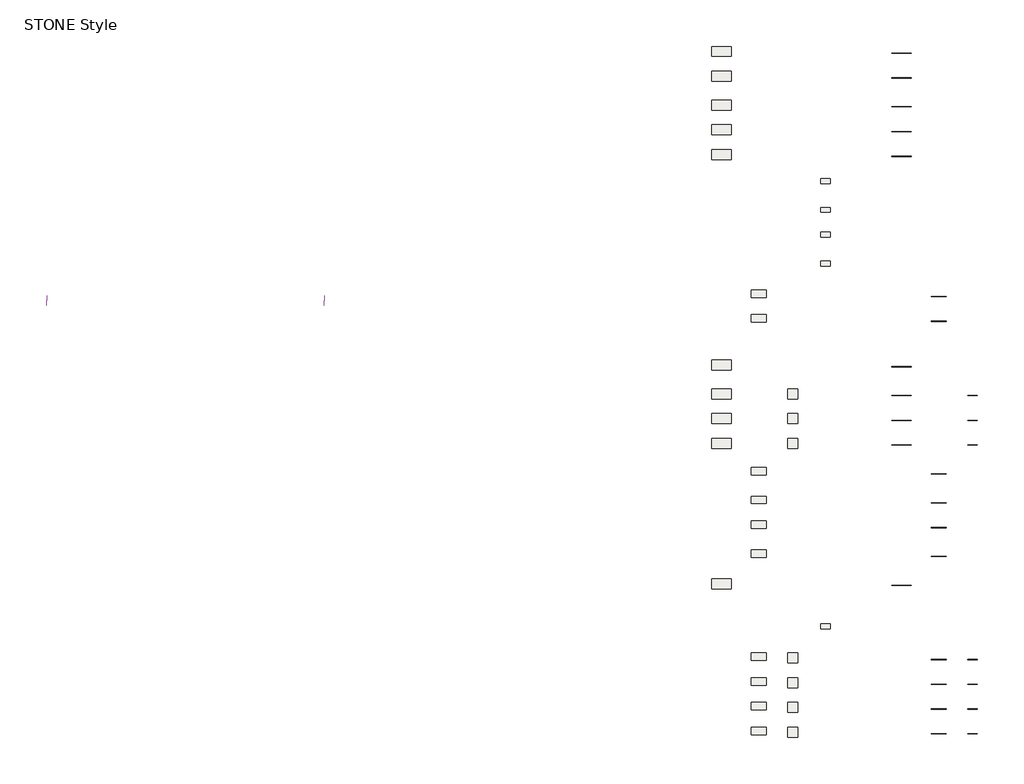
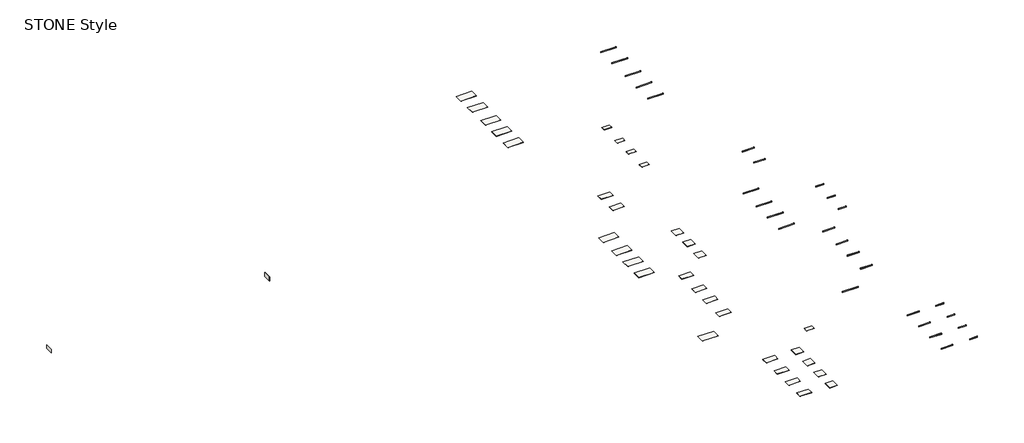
# One storey: 32 slabs, 29 walls, 27 proxies.
"""IFC4 building model written with IfcOpenShell, lengths in millimetres."""

import ifcopenshell
import ifcopenshell.guid

model = None  # the IFC model being written
_history = None  # IfcOwnerHistory: only IFC2X3 demands one
_inside = {}  # id of a spatial element -> (the spatial element, [elements in it])
_under = {}  # id of a project, library or spatial element -> (it, [spatial elements below it])
_declared = {}  # id of a project -> (the project, [libraries it declares])
_typed = {}  # id of a type object -> (the type object, [elements of that type])
_made_of = {}  # id of a material, layer set ... -> (it, [elements and type objects made of it])


def new_model(schema):
    """Start an empty IFC model of exactly this schema.

    Asked for "IFC4X3", IfcOpenShell would pick the latest addendum, in which some entities
    have other attributes; the version numbers below select the first issue.
    IFC2X3 requires an IfcOwnerHistory on every rooted entity: one is made here for all.
    """
    global model, _history
    if schema == "IFC4X3":
        model = ifcopenshell.file(schema_version=(4, 3, 0, 0))
    else:
        model = ifcopenshell.file(schema=schema)
    _inside.clear()
    _under.clear()
    _declared.clear()
    _typed.clear()
    _made_of.clear()
    _history = None
    if model.schema == "IFC2X3":
        org = make("IfcOrganization", Name="unknown")
        user = make(
            "IfcPersonAndOrganization",
            ThePerson=make("IfcPerson", FamilyName="unknown"),
            TheOrganization=org,
        )
        app = make(
            "IfcApplication",
            ApplicationDeveloper=org,
            Version="unknown",
            ApplicationFullName="unknown",
            ApplicationIdentifier="unknown",
        )
        _history = make(
            "IfcOwnerHistory",
            OwningUser=user,
            OwningApplication=app,
            ChangeAction="ADDED",
            CreationDate=0,
        )
    return model


def make(cls, **values):
    """One entity of the class cls with the attributes given. An attribute that is None is left unset."""
    return model.create_entity(
        cls, **{name: value for name, value in values.items() if value is not None}
    )


def rooted(cls, **values):
    """An entity with a GlobalId (a new one), such as an element, a storey or a relation."""
    return make(cls, GlobalId=ifcopenshell.guid.new(), OwnerHistory=_history, **values)


def si_unit(unit_type, name, prefix=None):
    """IfcSIUnit, for example si_unit("LENGTHUNIT", "METRE", prefix="MILLI")."""
    return make("IfcSIUnit", UnitType=unit_type, Prefix=prefix, Name=name)


def assignment(units):
    """IfcUnitAssignment: the units of a project."""
    return None if units is None else make("IfcUnitAssignment", Units=units)


def point(xyz):
    """IfcCartesianPoint."""
    return None if xyz is None else make("IfcCartesianPoint", Coordinates=xyz)


def direction(xyz):
    """IfcDirection."""
    return None if xyz is None else make("IfcDirection", DirectionRatios=xyz)


def frame(location, z_axis=None, x_axis=None):
    """IfcAxis2Placement3D, a coordinate frame: its origin and axes. An axis left out is left unset."""
    return make(
        "IfcAxis2Placement3D",
        Location=point(location),
        Axis=direction(z_axis),
        RefDirection=direction(x_axis),
    )


def origin():
    """The frame at (0, 0, 0) with its axes left unset."""
    return frame((0.0, 0.0, 0.0))


def place(relative_to, where):
    """IfcLocalPlacement: puts the frame where relative to a parent placement (None: the world)."""
    return make(
        "IfcLocalPlacement", PlacementRelTo=relative_to, RelativePlacement=where
    )


def context(
    kind, dimensions, precision=None, world=None, true_north=None, identifier=None
):
    """IfcGeometricRepresentationContext, for example the 3D "Model" context."""
    return make(
        "IfcGeometricRepresentationContext",
        ContextIdentifier=identifier,
        ContextType=kind,
        CoordinateSpaceDimension=dimensions,
        Precision=precision,
        WorldCoordinateSystem=world,
        TrueNorth=true_north,
    )


def project(units=None, contexts=None):
    """IfcProject with its units and contexts."""
    return rooted(
        "IfcProject",
        Name="project",
        RepresentationContexts=contexts,
        UnitsInContext=assignment(units),
    )


def spatial(cls, under=None, at=None, **own):
    """A site, building, storey or space (cls), placed at a placement, below another one or the project."""
    s = rooted(cls, ObjectPlacement=at, **own)
    if under is not None:
        _under.setdefault(under.id(), (under, []))[1].append(s)
    return s


def polyline(points):
    """IfcPolyline through the points."""
    return make("IfcPolyline", Points=[point(p) for p in points])


def outline(outer, holes=None, kind="AREA"):
    """IfcArbitraryClosedProfileDef: a profile drawn as a closed curve; with holes, ...WithVoids."""
    if holes is None:
        return make("IfcArbitraryClosedProfileDef", ProfileType=kind, OuterCurve=outer)
    return make(
        "IfcArbitraryProfileDefWithVoids",
        ProfileType=kind,
        OuterCurve=outer,
        InnerCurves=holes,
    )


def extrude(swept, where, along, depth):
    """IfcExtrudedAreaSolid: the profile swept, set in the frame where, extruded along a direction by depth."""
    return make(
        "IfcExtrudedAreaSolid",
        SweptArea=swept,
        Position=where,
        ExtrudedDirection=direction(along),
        Depth=depth,
    )


def shape(context_of_items, identifier, shape_type, items):
    """IfcShapeRepresentation: the items that make up one representation, for example the "Body"."""
    return make(
        "IfcShapeRepresentation",
        ContextOfItems=context_of_items,
        RepresentationIdentifier=identifier,
        RepresentationType=shape_type,
        Items=items,
    )


def made_of(thing, what):
    """Note that an element or type object is made of a material, layer set ...; save() writes the relation."""
    if what is not None:
        _made_of.setdefault(what.id(), (what, []))[1].append(thing)
    return thing


def element(
    cls,
    number,
    at=None,
    inside=None,
    cuts=None,
    type_object=None,
    material=None,
    context=None,
    identifier="Body",
    shape_type=None,
    held_by="IfcProductDefinitionShape",
    body=None,
    shapes=None,
    **own,
):
    """One element of the class cls, such as IfcWall. Its Tag is "e" and its number.

    at: its placement. inside: the storey or other place that contains it. cuts: it is an
    opening in that element (IfcRelVoidsElement). A single representation is given by context,
    identifier, shape_type and body (its items); several are given by shapes. held_by: the class
    of the entity that holds the representations. save() writes the other relations.
    """
    e = rooted(cls, Tag="e%d" % number, ObjectPlacement=at, **own)
    if body is not None:
        shapes = [shape(context, identifier, shape_type, body)]
    if shapes is not None:
        e.Representation = make(held_by, Representations=shapes)
    if inside is not None:
        _inside.setdefault(inside.id(), (inside, []))[1].append(e)
    if cuts is not None:
        rooted(
            "IfcRelVoidsElement", RelatingBuildingElement=cuts, RelatedOpeningElement=e
        )
    if type_object is not None:
        _typed.setdefault(type_object.id(), (type_object, []))[1].append(e)
    return made_of(e, material)


def aggregate(whole, parts):
    """IfcRelAggregates: a whole, such as a stair, and the parts it consists of."""
    return rooted("IfcRelAggregates", RelatingObject=whole, RelatedObjects=parts)


def save(model, path):
    """Write the relations noted so far, then the file.

    IfcRelAggregates (storeys below a building ...), IfcRelContainedInSpatialStructure (elements
    in a storey), IfcRelDefinesByType, IfcRelAssociatesMaterial and IfcRelDeclares: one each for
    every whole, place, type object, material and project.
    """
    for whole, parts in _under.values():
        aggregate(whole, parts)
    for where, things in _inside.values():
        rooted(
            "IfcRelContainedInSpatialStructure",
            RelatedElements=things,
            RelatingStructure=where,
        )
    for kind, things in _typed.values():
        rooted("IfcRelDefinesByType", RelatedObjects=things, RelatingType=kind)
    for what, things in _made_of.values():
        rooted("IfcRelAssociatesMaterial", RelatedObjects=things, RelatingMaterial=what)
    for by, libraries in _declared.values():
        rooted("IfcRelDeclares", RelatingContext=by, RelatedDefinitions=libraries)
    model.write(path)


model = new_model("IFC4")

# Units and contexts
model_context = context("Model", 3, world=origin())
ifc_project = project(units=[si_unit("LENGTHUNIT", "METRE", prefix="MILLI")], contexts=[model_context])

# Site, building, storey
site = spatial("IfcSite", under=ifc_project)
building = spatial("IfcBuilding", under=site)
storey = spatial("IfcBuildingStorey", under=building, Name="STONE Style", Elevation=18000.0)

# Proxies
placement = place(None, origin())
element("IfcBuildingElementProxy", 1, Name="Cesantoni_Atis _8x120_RO_Grigio_Mate", ObjectType="Cesantoni_Atis _8x120_RO_Grigio_Mate", at=placement, inside=storey, context=model_context, shape_type="SweptSolid", body=[
    extrude(outline(polyline([(9669.8218898, 374.781227), (9669.8218898, 385.781227), (10869.8218898, 385.781227), (10869.8218898, 374.781227), (9669.8218898, 374.781227)])), frame((0.0, 0.0, 18000.0), z_axis=(0.0, 0.0, 1.0), x_axis=(1.0, 0.0, 0.0)), (0.0, 0.0, 1.0), 80.0),
])
element("IfcBuildingElementProxy", 2, Name="Cesantoni_Atis _8x120_RO_Marfil_Mate", ObjectType="Cesantoni_Atis _8x120_RO_Marfil_Mate", at=placement, inside=storey, context=model_context, shape_type="SweptSolid", body=[
    extrude(outline(polyline([(9669.8218898, -1125.218773), (9669.8218898, -1114.218773), (10869.8218898, -1114.218773), (10869.8218898, -1125.218773), (9669.8218898, -1125.218773)])), frame((0.0, 0.0, 18000.0), z_axis=(0.0, 0.0, 1.0), x_axis=(1.0, 0.0, 0.0)), (0.0, 0.0, 1.0), 80.0),
])
element("IfcBuildingElementProxy", 3, Name="Cesantoni_Botev _8x120_RO_Marfil_Mate", ObjectType="Cesantoni_Botev _8x120_RO_Marfil_Mate", at=placement, inside=storey, context=model_context, shape_type="SweptSolid", body=[
    extrude(outline(polyline([(9669.8218898, -2875.218773), (9669.8218898, -2864.218773), (10869.8218898, -2864.218773), (10869.8218898, -2875.218773), (9669.8218898, -2875.218773)])), frame((0.0, 0.0, 18000.0), z_axis=(0.0, 0.0, 1.0), x_axis=(1.0, 0.0, 0.0)), (0.0, 0.0, 1.0), 80.0),
])
element("IfcBuildingElementProxy", 4, Name="Cesantoni_Botev _8x120_RO_Tabaco_Mate", ObjectType="Cesantoni_Botev _8x120_RO_Tabaco_Mate", at=placement, inside=storey, context=model_context, shape_type="SweptSolid", body=[
    extrude(outline(polyline([(9669.8218898, -4375.218773), (9669.8218898, -4364.218773), (10869.8218898, -4364.218773), (10869.8218898, -4375.218773), (9669.8218898, -4375.218773)])), frame((0.0, 0.0, 18000.0), z_axis=(0.0, 0.0, 1.0), x_axis=(1.0, 0.0, 0.0)), (0.0, 0.0, 1.0), 80.0),
])
element("IfcBuildingElementProxy", 5, Name="Cesantoni_Botev _8x120_RO_Taupé_Mate", ObjectType="Cesantoni_Botev _8x120_RO_Taupé_Mate", at=placement, inside=storey, context=model_context, shape_type="SweptSolid", body=[
    extrude(outline(polyline([(9669.8218898, -5875.218773), (9669.8218898, -5864.218773), (10869.8218898, -5864.218773), (10869.8218898, -5875.218773), (9669.8218898, -5875.218773)])), frame((0.0, 0.0, 18000.0), z_axis=(0.0, 0.0, 1.0), x_axis=(1.0, 0.0, 0.0)), (0.0, 0.0, 1.0), 80.0),
])
element("IfcBuildingElementProxy", 6, Name="Cesantoni_Gaudi_8x90_RO_Gris_Mate", ObjectType="Cesantoni_Gaudi_8x90_RO_Gris_Mate", at=placement, inside=storey, context=model_context, shape_type="SweptSolid", body=[
    extrude(outline(polyline([(12069.8218898, -14375.218773), (12069.8218898, -14364.218773), (12969.8218898, -14364.218773), (12969.8218898, -14375.218773), (12069.8218898, -14375.218773)])), frame((0.0, 0.0, 18000.0), z_axis=(0.0, 0.0, 1.0), x_axis=(1.0, 0.0, 0.0)), (0.0, 0.0, 1.0), 80.0),
])
element("IfcBuildingElementProxy", 7, Name="Cesantoni_Gaudi_8x90_RO_Café_Mate", ObjectType="Cesantoni_Gaudi_8x90_RO_Café_Mate", at=placement, inside=storey, context=model_context, shape_type="SweptSolid", body=[
    extrude(outline(polyline([(12069.8218898, -15875.218773), (12069.8218898, -15864.218773), (12969.8218898, -15864.218773), (12969.8218898, -15875.218773), (12069.8218898, -15875.218773)])), frame((0.0, 0.0, 18000.0), z_axis=(0.0, 0.0, 1.0), x_axis=(1.0, 0.0, 0.0)), (0.0, 0.0, 1.0), 80.0),
])
element("IfcBuildingElementProxy", 8, Name="Cesantoni_Helsinki _8x120_RO_Helsinki _Mate", ObjectType="Cesantoni_Helsinki _8x120_RO_Helsinki _Mate", at=placement, inside=storey, context=model_context, shape_type="SweptSolid", body=[
    extrude(outline(polyline([(9669.8218898, -18625.218773), (9669.8218898, -18614.218773), (10869.8218898, -18614.218773), (10869.8218898, -18625.218773), (9669.8218898, -18625.218773)])), frame((0.0, 0.0, 18000.0), z_axis=(0.0, 0.0, 1.0), x_axis=(1.0, 0.0, 0.0)), (0.0, 0.0, 1.0), 80.0),
])
element("IfcBuildingElementProxy", 9, Name="Cesantoni_Kiel_8x60_RO_Sand_Mate", ObjectType="Cesantoni_Kiel_8x60_RO_Sand_Mate", at=placement, inside=storey, context=model_context, shape_type="SweptSolid", body=[
    extrude(outline(polyline([(14269.8218898, -20375.218773), (14269.8218898, -20364.218773), (14869.8218898, -20364.218773), (14869.8218898, -20375.218773), (14269.8218898, -20375.218773)])), frame((0.0, 0.0, 18000.0), z_axis=(0.0, 0.0, 1.0), x_axis=(1.0, 0.0, 0.0)), (0.0, 0.0, 1.0), 80.0),
])
element("IfcBuildingElementProxy", 10, Name="Cesantoni_Kiel_8x60_RO_Gray_Mate", ObjectType="Cesantoni_Kiel_8x60_RO_Gray_Mate", at=placement, inside=storey, context=model_context, shape_type="SweptSolid", body=[
    extrude(outline(polyline([(14269.8218898, -21875.218773), (14269.8218898, -21864.218773), (14869.8218898, -21864.218773), (14869.8218898, -21875.218773), (14269.8218898, -21875.218773)])), frame((0.0, 0.0, 18000.0), z_axis=(0.0, 0.0, 1.0), x_axis=(1.0, 0.0, 0.0)), (0.0, 0.0, 1.0), 80.0),
])
element("IfcBuildingElementProxy", 11, Name="Cesantoni_Kiel_8x60_RO_Dark_Mate", ObjectType="Cesantoni_Kiel_8x60_RO_Dark_Mate", at=placement, inside=storey, context=model_context, shape_type="SweptSolid", body=[
    extrude(outline(polyline([(14269.8218898, -23375.218773), (14269.8218898, -23364.218773), (14869.8218898, -23364.218773), (14869.8218898, -23375.218773), (14269.8218898, -23375.218773)])), frame((0.0, 0.0, 18000.0), z_axis=(0.0, 0.0, 1.0), x_axis=(1.0, 0.0, 0.0)), (0.0, 0.0, 1.0), 80.0),
])
element("IfcBuildingElementProxy", 12, Name="Cesantoni_Kiel_8x120_RO_Sand_Mate", ObjectType="Cesantoni_Kiel_8x120_RO_Sand_Mate", at=placement, inside=storey, context=model_context, shape_type="SweptSolid", body=[
    extrude(outline(polyline([(9669.8218898, -20375.218773), (9669.8218898, -20364.218773), (10869.8218898, -20364.218773), (10869.8218898, -20375.218773), (9669.8218898, -20375.218773)])), frame((0.0, 0.0, 18000.0), z_axis=(0.0, 0.0, 1.0), x_axis=(1.0, 0.0, 0.0)), (0.0, 0.0, 1.0), 80.0),
])
element("IfcBuildingElementProxy", 13, Name="Cesantoni_Kiel_8x120_RO_Dark_Mate", ObjectType="Cesantoni_Kiel_8x120_RO_Dark_Mate", at=placement, inside=storey, context=model_context, shape_type="SweptSolid", body=[
    extrude(outline(polyline([(9669.8218898, -21875.218773), (9669.8218898, -21864.218773), (10869.8218898, -21864.218773), (10869.8218898, -21875.218773), (9669.8218898, -21875.218773)])), frame((0.0, 0.0, 18000.0), z_axis=(0.0, 0.0, 1.0), x_axis=(1.0, 0.0, 0.0)), (0.0, 0.0, 1.0), 80.0),
])
element("IfcBuildingElementProxy", 14, Name="Cesantoni_Kiel_8x120_RO_Gray_Mate", ObjectType="Cesantoni_Kiel_8x120_RO_Gray_Mate", at=placement, inside=storey, context=model_context, shape_type="SweptSolid", body=[
    extrude(outline(polyline([(9669.8218898, -23375.218773), (9669.8218898, -23364.218773), (10869.8218898, -23364.218773), (10869.8218898, -23375.218773), (9669.8218898, -23375.218773)])), frame((0.0, 0.0, 18000.0), z_axis=(0.0, 0.0, 1.0), x_axis=(1.0, 0.0, 0.0)), (0.0, 0.0, 1.0), 80.0),
])
element("IfcBuildingElementProxy", 15, Name="Cesantoni_Lanz_8x90_RO_Lanz_Mate", ObjectType="Cesantoni_Lanz_8x90_RO_Lanz_Mate", at=placement, inside=storey, context=model_context, shape_type="SweptSolid", body=[
    extrude(outline(polyline([(12069.8218898, -25125.218773), (12069.8218898, -25114.218773), (12969.8218898, -25114.218773), (12969.8218898, -25125.218773), (12069.8218898, -25125.218773)])), frame((0.0, 0.0, 18000.0), z_axis=(0.0, 0.0, 1.0), x_axis=(1.0, 0.0, 0.0)), (0.0, 0.0, 1.0), 80.0),
])
element("IfcBuildingElementProxy", 16, Name="Cesantoni_Lemek_8x90_RO_Grafito_Mate", ObjectType="Cesantoni_Lemek_8x90_RO_Grafito_Mate", at=placement, inside=storey, context=model_context, shape_type="SweptSolid", body=[
    extrude(outline(polyline([(12069.8218898, -26875.218773), (12069.8218898, -26864.218773), (12969.8218898, -26864.218773), (12969.8218898, -26875.218773), (12069.8218898, -26875.218773)])), frame((0.0, 0.0, 18000.0), z_axis=(0.0, 0.0, 1.0), x_axis=(1.0, 0.0, 0.0)), (0.0, 0.0, 1.0), 80.0),
])
element("IfcBuildingElementProxy", 17, Name="Cesantoni_Lemek_8x90_RO_Blanco_Mate", ObjectType="Cesantoni_Lemek_8x90_RO_Blanco_Mate", at=placement, inside=storey, context=model_context, shape_type="SweptSolid", body=[
    extrude(outline(polyline([(12069.8218898, -28375.218773), (12069.8218898, -28364.218773), (12969.8218898, -28364.218773), (12969.8218898, -28375.218773), (12069.8218898, -28375.218773)])), frame((0.0, 0.0, 18000.0), z_axis=(0.0, 0.0, 1.0), x_axis=(1.0, 0.0, 0.0)), (0.0, 0.0, 1.0), 80.0),
])
element("IfcBuildingElementProxy", 18, Name="Cesantoni_Lombardi _8x90_RO_Taupé_Mate", ObjectType="Cesantoni_Lombardi _8x90_RO_Taupé_Mate", at=placement, inside=storey, context=model_context, shape_type="SweptSolid", body=[
    extrude(outline(polyline([(12069.8218898, -30125.218773), (12069.8218898, -30114.218773), (12969.8218898, -30114.218773), (12969.8218898, -30125.218773), (12069.8218898, -30125.218773)])), frame((0.0, 0.0, 18000.0), z_axis=(0.0, 0.0, 1.0), x_axis=(1.0, 0.0, 0.0)), (0.0, 0.0, 1.0), 80.0),
])
element("IfcBuildingElementProxy", 19, Name="Cesantoni_Martel_Gray _8x120_RO_Martel_Gray _Mate", ObjectType="Cesantoni_Martel_Gray _8x120_RO_Martel_Gray _Mate", at=placement, inside=storey, context=model_context, shape_type="SweptSolid", body=[
    extrude(outline(polyline([(9669.8218898, -31875.218773), (9669.8218898, -31864.218773), (10869.8218898, -31864.218773), (10869.8218898, -31875.218773), (9669.8218898, -31875.218773)])), frame((0.0, 0.0, 18000.0), z_axis=(0.0, 0.0, 1.0), x_axis=(1.0, 0.0, 0.0)), (0.0, 0.0, 1.0), 80.0),
])
element("IfcBuildingElementProxy", 20, Name="Cesantoni_Piamont_8x90_RO_Beige_Mate", ObjectType="Cesantoni_Piamont_8x90_RO_Beige_Mate", at=placement, inside=storey, context=model_context, shape_type="SweptSolid", body=[
    extrude(outline(polyline([(12069.8218898, -36375.218773), (12069.8218898, -36364.218773), (12969.8218898, -36364.218773), (12969.8218898, -36375.218773), (12069.8218898, -36375.218773)])), frame((0.0, 0.0, 18000.0), z_axis=(0.0, 0.0, 1.0), x_axis=(1.0, 0.0, 0.0)), (0.0, 0.0, 1.0), 80.0),
])
element("IfcBuildingElementProxy", 21, Name="Cesantoni_Piamont_8x90_RO_Blanco_Mate", ObjectType="Cesantoni_Piamont_8x90_RO_Blanco_Mate", at=placement, inside=storey, context=model_context, shape_type="SweptSolid", body=[
    extrude(outline(polyline([(12069.8218898, -37875.218773), (12069.8218898, -37864.218773), (12969.8218898, -37864.218773), (12969.8218898, -37875.218773), (12069.8218898, -37875.218773)])), frame((0.0, 0.0, 18000.0), z_axis=(0.0, 0.0, 1.0), x_axis=(1.0, 0.0, 0.0)), (0.0, 0.0, 1.0), 80.0),
])
element("IfcBuildingElementProxy", 22, Name="Cesantoni_Piamont_8x90_RO_Café_Mate", ObjectType="Cesantoni_Piamont_8x90_RO_Café_Mate", at=placement, inside=storey, context=model_context, shape_type="SweptSolid", body=[
    extrude(outline(polyline([(12069.8218898, -39375.218773), (12069.8218898, -39364.218773), (12969.8218898, -39364.218773), (12969.8218898, -39375.218773), (12069.8218898, -39375.218773)])), frame((0.0, 0.0, 18000.0), z_axis=(0.0, 0.0, 1.0), x_axis=(1.0, 0.0, 0.0)), (0.0, 0.0, 1.0), 80.0),
])
element("IfcBuildingElementProxy", 23, Name="Cesantoni_Piamont_8x90_RO_Gris_Mate", ObjectType="Cesantoni_Piamont_8x90_RO_Gris_Mate", at=placement, inside=storey, context=model_context, shape_type="SweptSolid", body=[
    extrude(outline(polyline([(12069.8218898, -40875.218773), (12069.8218898, -40864.218773), (12969.8218898, -40864.218773), (12969.8218898, -40875.218773), (12069.8218898, -40875.218773)])), frame((0.0, 0.0, 18000.0), z_axis=(0.0, 0.0, 1.0), x_axis=(1.0, 0.0, 0.0)), (0.0, 0.0, 1.0), 80.0),
])
element("IfcBuildingElementProxy", 24, Name="Cesantoni_Piamont_8x60_RO_Beige_Mate", ObjectType="Cesantoni_Piamont_8x60_RO_Beige_Mate", at=placement, inside=storey, context=model_context, shape_type="SweptSolid", body=[
    extrude(outline(polyline([(14269.8218898, -36375.218773), (14269.8218898, -36364.218773), (14869.8218898, -36364.218773), (14869.8218898, -36375.218773), (14269.8218898, -36375.218773)])), frame((0.0, 0.0, 18000.0), z_axis=(0.0, 0.0, 1.0), x_axis=(1.0, 0.0, 0.0)), (0.0, 0.0, 1.0), 80.0),
])
element("IfcBuildingElementProxy", 25, Name="Cesantoni_Piamont_8x60_RO_Blanco_Mate", ObjectType="Cesantoni_Piamont_8x60_RO_Blanco_Mate", at=placement, inside=storey, context=model_context, shape_type="SweptSolid", body=[
    extrude(outline(polyline([(14269.8218898, -37875.218773), (14269.8218898, -37864.218773), (14869.8218898, -37864.218773), (14869.8218898, -37875.218773), (14269.8218898, -37875.218773)])), frame((0.0, 0.0, 18000.0), z_axis=(0.0, 0.0, 1.0), x_axis=(1.0, 0.0, 0.0)), (0.0, 0.0, 1.0), 80.0),
])
element("IfcBuildingElementProxy", 26, Name="Cesantoni_Piamont_8x60_RO_Café_Mate", ObjectType="Cesantoni_Piamont_8x60_RO_Café_Mate", at=placement, inside=storey, context=model_context, shape_type="SweptSolid", body=[
    extrude(outline(polyline([(14269.8218898, -39375.218773), (14269.8218898, -39364.218773), (14869.8218898, -39364.218773), (14869.8218898, -39375.218773), (14269.8218898, -39375.218773)])), frame((0.0, 0.0, 18000.0), z_axis=(0.0, 0.0, 1.0), x_axis=(1.0, 0.0, 0.0)), (0.0, 0.0, 1.0), 80.0),
])
element("IfcBuildingElementProxy", 27, Name="Cesantoni_Piamont_8x60_RO_Gris_Mate", ObjectType="Cesantoni_Piamont_8x60_RO_Gris_Mate", at=placement, inside=storey, context=model_context, shape_type="SweptSolid", body=[
    extrude(outline(polyline([(14269.8218898, -40875.218773), (14269.8218898, -40864.218773), (14869.8218898, -40864.218773), (14869.8218898, -40875.218773), (14269.8218898, -40875.218773)])), frame((0.0, 0.0, 18000.0), z_axis=(0.0, 0.0, 1.0), x_axis=(1.0, 0.0, 0.0)), (0.0, 0.0, 1.0), 80.0),
])

# Slabs
element("IfcSlab", 28, ObjectType="Cesantoni_Atis _60x120_RECT_Grigio_Mate", at=placement, inside=storey, context=model_context, shape_type="SweptSolid", body=[
    extrude(outline(polyline([(-28.1781102, 784.4826442), (-28.1781102, 182.4826442), (-1230.1781102, 182.4826442), (-1230.1781102, 784.4826442), (-28.1781102, 784.4826442)])), frame((0.0, 0.0, 17989.0), z_axis=(0.0, 0.0, 1.0), x_axis=(1.0, 0.0, 0.0)), (0.0, 0.0, 1.0), 11.0),
])
element("IfcSlab", 29, ObjectType="Cesantoni_Atis _60x120_RECT_Marfil_Mate", at=placement, inside=storey, context=model_context, shape_type="SweptSolid", body=[
    extrude(outline(polyline([(-28.1781102, -715.5173558), (-28.1781102, -1317.5173558), (-1230.1781102, -1317.5173558), (-1230.1781102, -715.5173558), (-28.1781102, -715.5173558)])), frame((0.0, 0.0, 17989.0), z_axis=(0.0, 0.0, 1.0), x_axis=(1.0, 0.0, 0.0)), (0.0, 0.0, 1.0), 11.0),
])
element("IfcSlab", 30, ObjectType="Cesantoni_Botev _60x120_RECT_Marfil_Mate", at=placement, inside=storey, context=model_context, shape_type="SweptSolid", body=[
    extrude(outline(polyline([(-28.1781102, -2465.5173558), (-28.1781102, -3067.5173558), (-1230.1781102, -3067.5173558), (-1230.1781102, -2465.5173558), (-28.1781102, -2465.5173558)])), frame((0.0, 0.0, 17989.0), z_axis=(0.0, 0.0, 1.0), x_axis=(1.0, 0.0, 0.0)), (0.0, 0.0, 1.0), 11.0),
])
element("IfcSlab", 31, ObjectType="Cesantoni_Botev _60x120_RECT_Tabaco_Mate", at=placement, inside=storey, context=model_context, shape_type="SweptSolid", body=[
    extrude(outline(polyline([(-28.1781102, -3965.5173558), (-28.1781102, -4567.5173558), (-1230.1781102, -4567.5173558), (-1230.1781102, -3965.5173558), (-28.1781102, -3965.5173558)])), frame((0.0, 0.0, 17989.0), z_axis=(0.0, 0.0, 1.0), x_axis=(1.0, 0.0, 0.0)), (0.0, 0.0, 1.0), 11.0),
])
element("IfcSlab", 32, ObjectType="Cesantoni_Botev _60x120_RECT_Taupé_Mate", at=placement, inside=storey, context=model_context, shape_type="SweptSolid", body=[
    extrude(outline(polyline([(-28.1781102, -5465.5173558), (-28.1781102, -6067.5173558), (-1230.1781102, -6067.5173558), (-1230.1781102, -5465.5173558), (-28.1781102, -5465.5173558)])), frame((0.0, 0.0, 17989.0), z_axis=(0.0, 0.0, 1.0), x_axis=(1.0, 0.0, 0.0)), (0.0, 0.0, 1.0), 11.0),
])
element("IfcSlab", 33, ObjectType="Cesantoni_Clever_29.5x58_Clever_Mate", at=placement, inside=storey, context=model_context, shape_type="SweptSolid", body=[
    extrude(outline(polyline([(5953.8218898, -7215.5173558), (5953.8218898, -7514.5173558), (5369.8218898, -7514.5173558), (5369.8218898, -7215.5173558), (5953.8218898, -7215.5173558)])), frame((0.0, 0.0, 17989.0), z_axis=(0.0, 0.0, 1.0), x_axis=(1.0, 0.0, 0.0)), (0.0, 0.0, 1.0), 11.0),
])
element("IfcSlab", 34, ObjectType="Cesantoni_Etiopia_29.5x58_Beige_Mate", at=placement, inside=storey, context=model_context, shape_type="SweptSolid", body=[
    extrude(outline(polyline([(5953.8218898, -8965.5173558), (5953.8218898, -9264.5173558), (5369.8218898, -9264.5173558), (5369.8218898, -8965.5173558), (5953.8218898, -8965.5173558)])), frame((0.0, 0.0, 17991.0), z_axis=(0.0, 0.0, 1.0), x_axis=(1.0, 0.0, 0.0)), (0.0, 0.0, 1.0), 9.0),
])
element("IfcSlab", 35, ObjectType="Cesantoni_Etiopia_29.5x58_Café_Mate", at=placement, inside=storey, context=model_context, shape_type="SweptSolid", body=[
    extrude(outline(polyline([(5953.8218898, -10465.5173558), (5953.8218898, -10764.5173558), (5369.8218898, -10764.5173558), (5369.8218898, -10465.5173558), (5953.8218898, -10465.5173558)])), frame((0.0, 0.0, 17991.0), z_axis=(0.0, 0.0, 1.0), x_axis=(1.0, 0.0, 0.0)), (0.0, 0.0, 1.0), 9.0),
])
element("IfcSlab", 36, ObjectType="Cesantoni_Gaskan_29.5x58_Gaskan_Mate", at=placement, inside=storey, context=model_context, shape_type="SweptSolid", body=[
    extrude(outline(polyline([(5953.8218898, -12215.5173558), (5953.8218898, -12514.5173558), (5369.8218898, -12514.5173558), (5369.8218898, -12215.5173558), (5953.8218898, -12215.5173558)])), frame((0.0, 0.0, 17991.0), z_axis=(0.0, 0.0, 1.0), x_axis=(1.0, 0.0, 0.0)), (0.0, 0.0, 1.0), 9.0),
])
element("IfcSlab", 37, ObjectType="Cesantoni_Gaudi_45x90_RECT_Gris_Mate", at=placement, inside=storey, context=model_context, shape_type="SweptSolid", body=[
    extrude(outline(polyline([(2071.8218898, -13965.5173558), (2071.8218898, -14417.5173558), (1169.8218898, -14417.5173558), (1169.8218898, -13965.5173558), (2071.8218898, -13965.5173558)])), frame((0.0, 0.0, 17989.0), z_axis=(0.0, 0.0, 1.0), x_axis=(1.0, 0.0, 0.0)), (0.0, 0.0, 1.0), 11.0),
])
element("IfcSlab", 38, ObjectType="Cesantoni_Gaudi_45x90_RECT_Café_Mate", at=placement, inside=storey, context=model_context, shape_type="SweptSolid", body=[
    extrude(outline(polyline([(2071.8218898, -15465.5173558), (2071.8218898, -15917.5173558), (1169.8218898, -15917.5173558), (1169.8218898, -15465.5173558), (2071.8218898, -15465.5173558)])), frame((0.0, 0.0, 17989.0), z_axis=(0.0, 0.0, 1.0), x_axis=(1.0, 0.0, 0.0)), (0.0, 0.0, 1.0), 11.0),
])
element("IfcSlab", 39, ObjectType="Cesantoni_Helsinki _60x120_RECT_Helsinki _Mate", at=placement, inside=storey, context=model_context, shape_type="SweptSolid", body=[
    extrude(outline(polyline([(-28.1781102, -18215.5173558), (-28.1781102, -18817.5173558), (-1230.1781102, -18817.5173558), (-1230.1781102, -18215.5173558), (-28.1781102, -18215.5173558)])), frame((0.0, 0.0, 17989.0), z_axis=(0.0, 0.0, 1.0), x_axis=(1.0, 0.0, 0.0)), (0.0, 0.0, 1.0), 11.0),
])
element("IfcSlab", 40, ObjectType="Cesantoni_Kiel_60x120_RECT_Sand_Mate", at=placement, inside=storey, context=model_context, shape_type="SweptSolid", body=[
    extrude(outline(polyline([(-28.1781102, -19965.5173558), (-28.1781102, -20567.5173558), (-1230.1781102, -20567.5173558), (-1230.1781102, -19965.5173558), (-28.1781102, -19965.5173558)])), frame((0.0, 0.0, 17989.0), z_axis=(0.0, 0.0, 1.0), x_axis=(1.0, 0.0, 0.0)), (0.0, 0.0, 1.0), 11.0),
])
element("IfcSlab", 41, ObjectType="Cesantoni_Kiel_60x120_RECT_Gray_Mate", at=placement, inside=storey, context=model_context, shape_type="SweptSolid", body=[
    extrude(outline(polyline([(-28.1781102, -21465.5173558), (-28.1781102, -22067.5173558), (-1230.1781102, -22067.5173558), (-1230.1781102, -21465.5173558), (-28.1781102, -21465.5173558)])), frame((0.0, 0.0, 17989.0), z_axis=(0.0, 0.0, 1.0), x_axis=(1.0, 0.0, 0.0)), (0.0, 0.0, 1.0), 11.0),
])
element("IfcSlab", 42, ObjectType="Cesantoni_Kiel_60x120_RECT_Dark_Mate", at=placement, inside=storey, context=model_context, shape_type="SweptSolid", body=[
    extrude(outline(polyline([(-28.1781102, -22965.5173558), (-28.1781102, -23567.5173558), (-1230.1781102, -23567.5173558), (-1230.1781102, -22965.5173558), (-28.1781102, -22965.5173558)])), frame((0.0, 0.0, 17989.0), z_axis=(0.0, 0.0, 1.0), x_axis=(1.0, 0.0, 0.0)), (0.0, 0.0, 1.0), 11.0),
])
element("IfcSlab", 43, ObjectType="Cesantoni_Kiel_60x60_RECT_Sand_Mate", at=placement, inside=storey, context=model_context, shape_type="SweptSolid", body=[
    extrude(outline(polyline([(3971.8218898, -19965.5173558), (3971.8218898, -20567.5173558), (3369.8218898, -20567.5173558), (3369.8218898, -19965.5173558), (3971.8218898, -19965.5173558)])), frame((0.0, 0.0, 17989.0), z_axis=(0.0, 0.0, 1.0), x_axis=(1.0, 0.0, 0.0)), (0.0, 0.0, 1.0), 11.0),
])
element("IfcSlab", 44, ObjectType="Cesantoni_Kiel_60x60_RECT_Gray_Mate", at=placement, inside=storey, context=model_context, shape_type="SweptSolid", body=[
    extrude(outline(polyline([(3971.8218898, -21465.5173558), (3971.8218898, -22067.5173558), (3369.8218898, -22067.5173558), (3369.8218898, -21465.5173558), (3971.8218898, -21465.5173558)])), frame((0.0, 0.0, 17989.0), z_axis=(0.0, 0.0, 1.0), x_axis=(1.0, 0.0, 0.0)), (0.0, 0.0, 1.0), 11.0),
])
element("IfcSlab", 45, ObjectType="Cesantoni_Kiel_60x60_RECT_Dark_Mate", at=placement, inside=storey, context=model_context, shape_type="SweptSolid", body=[
    extrude(outline(polyline([(3971.8218898, -22965.5173558), (3971.8218898, -23567.5173558), (3369.8218898, -23567.5173558), (3369.8218898, -22965.5173558), (3971.8218898, -22965.5173558)])), frame((0.0, 0.0, 17989.0), z_axis=(0.0, 0.0, 1.0), x_axis=(1.0, 0.0, 0.0)), (0.0, 0.0, 1.0), 11.0),
])
element("IfcSlab", 46, ObjectType="Cesantoni_Lanz_45x90_RECT_Lanz_Mate", at=placement, inside=storey, context=model_context, shape_type="SweptSolid", body=[
    extrude(outline(polyline([(2071.8218898, -24715.5173558), (2071.8218898, -25167.5173558), (1169.8218898, -25167.5173558), (1169.8218898, -24715.5173558), (2071.8218898, -24715.5173558)])), frame((0.0, 0.0, 17989.0), z_axis=(0.0, 0.0, 1.0), x_axis=(1.0, 0.0, 0.0)), (0.0, 0.0, 1.0), 11.0),
])
element("IfcSlab", 47, ObjectType="Cesantoni_Lemek_45x90_RECT_Grafito_Mate", at=placement, inside=storey, context=model_context, shape_type="SweptSolid", body=[
    extrude(outline(polyline([(2071.8218898, -26465.5173558), (2071.8218898, -26917.5173558), (1169.8218898, -26917.5173558), (1169.8218898, -26465.5173558), (2071.8218898, -26465.5173558)])), frame((0.0, 0.0, 17989.0), z_axis=(0.0, 0.0, 1.0), x_axis=(1.0, 0.0, 0.0)), (0.0, 0.0, 1.0), 11.0),
])
element("IfcSlab", 48, ObjectType="Cesantoni_Lemek_45x90_RECT_Blanco_Mate", at=placement, inside=storey, context=model_context, shape_type="SweptSolid", body=[
    extrude(outline(polyline([(2071.8218898, -27965.5173558), (2071.8218898, -28417.5173558), (1169.8218898, -28417.5173558), (1169.8218898, -27965.5173558), (2071.8218898, -27965.5173558)])), frame((0.0, 0.0, 17989.0), z_axis=(0.0, 0.0, 1.0), x_axis=(1.0, 0.0, 0.0)), (0.0, 0.0, 1.0), 11.0),
])
element("IfcSlab", 49, ObjectType="Cesantoni_Lombardi _45x90_RECT_Taupé_Mate", at=placement, inside=storey, context=model_context, shape_type="SweptSolid", body=[
    extrude(outline(polyline([(2071.8218898, -29715.5173558), (2071.8218898, -30167.5173558), (1169.8218898, -30167.5173558), (1169.8218898, -29715.5173558), (2071.8218898, -29715.5173558)])), frame((0.0, 0.0, 17989.0), z_axis=(0.0, 0.0, 1.0), x_axis=(1.0, 0.0, 0.0)), (0.0, 0.0, 1.0), 11.0),
])
element("IfcSlab", 50, ObjectType="Cesantoni_Martel_Gray _60x120_RECT_Martel_Gray _Mate", at=placement, inside=storey, context=model_context, shape_type="SweptSolid", body=[
    extrude(outline(polyline([(-28.1781102, -31465.5173558), (-28.1781102, -32067.5173558), (-1230.1781102, -32067.5173558), (-1230.1781102, -31465.5173558), (-28.1781102, -31465.5173558)])), frame((0.0, 0.0, 17989.0), z_axis=(0.0, 0.0, 1.0), x_axis=(1.0, 0.0, 0.0)), (0.0, 0.0, 1.0), 11.0),
])
element("IfcSlab", 51, ObjectType="Cesantoni_Noslow_29.5x58_Noslow_Mate", at=placement, inside=storey, context=model_context, shape_type="SweptSolid", body=[
    extrude(outline(polyline([(5953.8218898, -34215.5173558), (5953.8218898, -34514.5173558), (5369.8218898, -34514.5173558), (5369.8218898, -34215.5173558), (5953.8218898, -34215.5173558)])), frame((0.0, 0.0, 17991.0), z_axis=(0.0, 0.0, 1.0), x_axis=(1.0, 0.0, 0.0)), (0.0, 0.0, 1.0), 9.0),
])
element("IfcSlab", 52, ObjectType="Cesantoni_Piamont_60x60_RECT_Beige_Mate", at=placement, inside=storey, context=model_context, shape_type="SweptSolid", body=[
    extrude(outline(polyline([(3971.8218898, -35965.5173558), (3971.8218898, -36567.5173558), (3369.8218898, -36567.5173558), (3369.8218898, -35965.5173558), (3971.8218898, -35965.5173558)])), frame((0.0, 0.0, 17989.0), z_axis=(0.0, 0.0, 1.0), x_axis=(1.0, 0.0, 0.0)), (0.0, 0.0, 1.0), 11.0),
])
element("IfcSlab", 53, ObjectType="Cesantoni_Piamont_60x60_RECT_Blanco_Mate", at=placement, inside=storey, context=model_context, shape_type="SweptSolid", body=[
    extrude(outline(polyline([(3971.8218898, -37465.5173558), (3971.8218898, -38067.5173558), (3369.8218898, -38067.5173558), (3369.8218898, -37465.5173558), (3971.8218898, -37465.5173558)])), frame((0.0, 0.0, 17989.0), z_axis=(0.0, 0.0, 1.0), x_axis=(1.0, 0.0, 0.0)), (0.0, 0.0, 1.0), 11.0),
])
element("IfcSlab", 54, ObjectType="Cesantoni_Piamont_60x60_RECT_Café_Mate", at=placement, inside=storey, context=model_context, shape_type="SweptSolid", body=[
    extrude(outline(polyline([(3971.8218898, -38965.5173558), (3971.8218898, -39567.5173558), (3369.8218898, -39567.5173558), (3369.8218898, -38965.5173558), (3971.8218898, -38965.5173558)])), frame((0.0, 0.0, 17989.0), z_axis=(0.0, 0.0, 1.0), x_axis=(1.0, 0.0, 0.0)), (0.0, 0.0, 1.0), 11.0),
])
element("IfcSlab", 55, ObjectType="Cesantoni_Piamont_60x60_RECT_Gris_Mate", at=placement, inside=storey, context=model_context, shape_type="SweptSolid", body=[
    extrude(outline(polyline([(3971.8218898, -40465.5173558), (3971.8218898, -41067.5173558), (3369.8218898, -41067.5173558), (3369.8218898, -40465.5173558), (3971.8218898, -40465.5173558)])), frame((0.0, 0.0, 17989.0), z_axis=(0.0, 0.0, 1.0), x_axis=(1.0, 0.0, 0.0)), (0.0, 0.0, 1.0), 11.0),
])
element("IfcSlab", 56, ObjectType="Cesantoni_Piamont_45x90_RECT_Beige_Mate", at=placement, inside=storey, context=model_context, shape_type="SweptSolid", body=[
    extrude(outline(polyline([(2071.8218898, -35965.5173558), (2071.8218898, -36417.5173558), (1169.8218898, -36417.5173558), (1169.8218898, -35965.5173558), (2071.8218898, -35965.5173558)])), frame((0.0, 0.0, 17989.0), z_axis=(0.0, 0.0, 1.0), x_axis=(1.0, 0.0, 0.0)), (0.0, 0.0, 1.0), 11.0),
])
element("IfcSlab", 57, ObjectType="Cesantoni_Piamont_45x90_RECT_Blanco_Mate", at=placement, inside=storey, context=model_context, shape_type="SweptSolid", body=[
    extrude(outline(polyline([(2071.8218898, -37465.5173558), (2071.8218898, -37917.5173558), (1169.8218898, -37917.5173558), (1169.8218898, -37465.5173558), (2071.8218898, -37465.5173558)])), frame((0.0, 0.0, 17989.0), z_axis=(0.0, 0.0, 1.0), x_axis=(1.0, 0.0, 0.0)), (0.0, 0.0, 1.0), 11.0),
])
element("IfcSlab", 58, ObjectType="Cesantoni_Piamont_45x90_RECT_Café_Mate", at=placement, inside=storey, context=model_context, shape_type="SweptSolid", body=[
    extrude(outline(polyline([(2071.8218898, -38965.5173558), (2071.8218898, -39417.5173558), (1169.8218898, -39417.5173558), (1169.8218898, -38965.5173558), (2071.8218898, -38965.5173558)])), frame((0.0, 0.0, 17989.0), z_axis=(0.0, 0.0, 1.0), x_axis=(1.0, 0.0, 0.0)), (0.0, 0.0, 1.0), 11.0),
])
element("IfcSlab", 59, ObjectType="Cesantoni_Piamont_45x90_RECT_Gris_Mate", at=placement, inside=storey, context=model_context, shape_type="SweptSolid", body=[
    extrude(outline(polyline([(2071.8218898, -40465.5173558), (2071.8218898, -40917.5173558), (1169.8218898, -40917.5173558), (1169.8218898, -40465.5173558), (2071.8218898, -40465.5173558)])), frame((0.0, 0.0, 17989.0), z_axis=(0.0, 0.0, 1.0), x_axis=(1.0, 0.0, 0.0)), (0.0, 0.0, 1.0), 11.0),
])

# Walls
element("IfcWall", 60, ObjectType="Cesantoni_Ardem_30x60_RECT_Ardem_Mate", at=placement, inside=storey, context=model_context, shape_type="SweptSolid", body=[
    extrude(outline(polyline([(-24674.55447, -14310.0172176), (-24674.55447, -14912.0172176), (-24684.55447, -14912.0172176), (-24684.55447, -14310.0172176), (-24674.55447, -14310.0172176)])), frame((0.0, 0.0, 20698.0), z_axis=(0.0, 0.0, 1.0), x_axis=(1.0, 0.0, 0.0)), (0.0, 0.0, 1.0), 302.0),
])
element("IfcWall", 61, ObjectType="Cesantoni_Milena_30x60_RECT_Milena_Mate", at=placement, inside=storey, context=model_context, shape_type="SweptSolid", body=[
    extrude(outline(polyline([(-41497.3407204, -14310.0321283), (-41497.3407204, -14912.0321283), (-41507.3407204, -14912.0321283), (-41507.3407204, -14310.0321283), (-41497.3407204, -14310.0321283)])), frame((0.0, 0.0, 20698.0), z_axis=(0.0, 0.0, 1.0), x_axis=(1.0, 0.0, 0.0)), (0.0, 0.0, 1.0), 302.0),
])
element("IfcWall", 62, ObjectType="Muro básico:muro", at=placement, inside=storey, context=model_context, shape_type="SweptSolid", body=[
    extrude(outline(polyline([(10869.8218898, 385.781227), (9669.8218898, 385.781227), (9669.8218898, 386.781227), (10869.8218898, 386.781227), (10869.8218898, 385.781227)])), frame((0.0, 0.0, 18000.0), z_axis=(0.0, 0.0, 1.0), x_axis=(1.0, 0.0, 0.0)), (0.0, 0.0, 1.0), 40.0),
])
element("IfcWall", 63, ObjectType="Muro básico:muro", at=placement, inside=storey, context=model_context, shape_type="SweptSolid", body=[
    extrude(outline(polyline([(10869.8218898, -1114.218773), (9669.8218898, -1114.218773), (9669.8218898, -1113.218773), (10869.8218898, -1113.218773), (10869.8218898, -1114.218773)])), frame((0.0, 0.0, 18000.0), z_axis=(0.0, 0.0, 1.0), x_axis=(1.0, 0.0, 0.0)), (0.0, 0.0, 1.0), 40.0),
])
element("IfcWall", 64, ObjectType="Muro básico:muro", at=placement, inside=storey, context=model_context, shape_type="SweptSolid", body=[
    extrude(outline(polyline([(10869.8218898, -2864.218773), (9669.8218898, -2864.218773), (9669.8218898, -2863.218773), (10869.8218898, -2863.218773), (10869.8218898, -2864.218773)])), frame((0.0, 0.0, 18000.0), z_axis=(0.0, 0.0, 1.0), x_axis=(1.0, 0.0, 0.0)), (0.0, 0.0, 1.0), 40.0),
])
element("IfcWall", 65, ObjectType="Muro básico:muro", at=placement, inside=storey, context=model_context, shape_type="SweptSolid", body=[
    extrude(outline(polyline([(10869.8218898, -4364.218773), (9669.8218898, -4364.218773), (9669.8218898, -4363.218773), (10869.8218898, -4363.218773), (10869.8218898, -4364.218773)])), frame((0.0, 0.0, 18000.0), z_axis=(0.0, 0.0, 1.0), x_axis=(1.0, 0.0, 0.0)), (0.0, 0.0, 1.0), 40.0),
])
element("IfcWall", 66, ObjectType="Muro básico:muro", at=placement, inside=storey, context=model_context, shape_type="SweptSolid", body=[
    extrude(outline(polyline([(10869.8218898, -5864.218773), (9669.8218898, -5864.218773), (9669.8218898, -5863.218773), (10869.8218898, -5863.218773), (10869.8218898, -5864.218773)])), frame((0.0, 0.0, 18000.0), z_axis=(0.0, 0.0, 1.0), x_axis=(1.0, 0.0, 0.0)), (0.0, 0.0, 1.0), 40.0),
])
element("IfcWall", 67, ObjectType="Muro básico:muro", at=placement, inside=storey, context=model_context, shape_type="SweptSolid", body=[
    extrude(outline(polyline([(12969.8218898, -14364.218773), (12069.8218898, -14364.218773), (12069.8218898, -14363.218773), (12969.8218898, -14363.218773), (12969.8218898, -14364.218773)])), frame((0.0, 0.0, 18000.0), z_axis=(0.0, 0.0, 1.0), x_axis=(1.0, 0.0, 0.0)), (0.0, 0.0, 1.0), 40.0),
])
element("IfcWall", 68, ObjectType="Muro básico:muro", at=placement, inside=storey, context=model_context, shape_type="SweptSolid", body=[
    extrude(outline(polyline([(12969.8218898, -15864.218773), (12069.8218898, -15864.218773), (12069.8218898, -15863.218773), (12969.8218898, -15863.218773), (12969.8218898, -15864.218773)])), frame((0.0, 0.0, 18000.0), z_axis=(0.0, 0.0, 1.0), x_axis=(1.0, 0.0, 0.0)), (0.0, 0.0, 1.0), 40.0),
])
element("IfcWall", 69, ObjectType="Muro básico:muro", at=placement, inside=storey, context=model_context, shape_type="SweptSolid", body=[
    extrude(outline(polyline([(10869.8218898, -18614.218773), (9669.8218898, -18614.218773), (9669.8218898, -18613.218773), (10869.8218898, -18613.218773), (10869.8218898, -18614.218773)])), frame((0.0, 0.0, 18000.0), z_axis=(0.0, 0.0, 1.0), x_axis=(1.0, 0.0, 0.0)), (0.0, 0.0, 1.0), 40.0),
])
element("IfcWall", 70, ObjectType="Muro básico:muro", at=placement, inside=storey, context=model_context, shape_type="SweptSolid", body=[
    extrude(outline(polyline([(14869.8218898, -20364.218773), (14269.8218898, -20364.218773), (14269.8218898, -20363.218773), (14869.8218898, -20363.218773), (14869.8218898, -20364.218773)])), frame((0.0, 0.0, 18000.0), z_axis=(0.0, 0.0, 1.0), x_axis=(1.0, 0.0, 0.0)), (0.0, 0.0, 1.0), 40.0),
])
element("IfcWall", 71, ObjectType="Muro básico:muro", at=placement, inside=storey, context=model_context, shape_type="SweptSolid", body=[
    extrude(outline(polyline([(14869.8218898, -21864.218773), (14269.8218898, -21864.218773), (14269.8218898, -21863.218773), (14869.8218898, -21863.218773), (14869.8218898, -21864.218773)])), frame((0.0, 0.0, 18000.0), z_axis=(0.0, 0.0, 1.0), x_axis=(1.0, 0.0, 0.0)), (0.0, 0.0, 1.0), 40.0),
])
element("IfcWall", 72, ObjectType="Muro básico:muro", at=placement, inside=storey, context=model_context, shape_type="SweptSolid", body=[
    extrude(outline(polyline([(14869.8218898, -23364.218773), (14269.8218898, -23364.218773), (14269.8218898, -23363.218773), (14869.8218898, -23363.218773), (14869.8218898, -23364.218773)])), frame((0.0, 0.0, 18000.0), z_axis=(0.0, 0.0, 1.0), x_axis=(1.0, 0.0, 0.0)), (0.0, 0.0, 1.0), 40.0),
])
element("IfcWall", 73, ObjectType="Muro básico:muro", at=placement, inside=storey, context=model_context, shape_type="SweptSolid", body=[
    extrude(outline(polyline([(10869.8218898, -20364.218773), (9669.8218898, -20364.218773), (9669.8218898, -20363.218773), (10869.8218898, -20363.218773), (10869.8218898, -20364.218773)])), frame((0.0, 0.0, 18000.0), z_axis=(0.0, 0.0, 1.0), x_axis=(1.0, 0.0, 0.0)), (0.0, 0.0, 1.0), 40.0),
])
element("IfcWall", 74, ObjectType="Muro básico:muro", at=placement, inside=storey, context=model_context, shape_type="SweptSolid", body=[
    extrude(outline(polyline([(10869.8218898, -21864.218773), (9669.8218898, -21864.218773), (9669.8218898, -21863.218773), (10869.8218898, -21863.218773), (10869.8218898, -21864.218773)])), frame((0.0, 0.0, 18000.0), z_axis=(0.0, 0.0, 1.0), x_axis=(1.0, 0.0, 0.0)), (0.0, 0.0, 1.0), 40.0),
])
element("IfcWall", 75, ObjectType="Muro básico:muro", at=placement, inside=storey, context=model_context, shape_type="SweptSolid", body=[
    extrude(outline(polyline([(10869.8218898, -23364.218773), (9669.8218898, -23364.218773), (9669.8218898, -23363.218773), (10869.8218898, -23363.218773), (10869.8218898, -23364.218773)])), frame((0.0, 0.0, 18000.0), z_axis=(0.0, 0.0, 1.0), x_axis=(1.0, 0.0, 0.0)), (0.0, 0.0, 1.0), 40.0),
])
element("IfcWall", 76, ObjectType="Muro básico:muro", at=placement, inside=storey, context=model_context, shape_type="SweptSolid", body=[
    extrude(outline(polyline([(12969.8218898, -25114.218773), (12069.8218898, -25114.218773), (12069.8218898, -25113.218773), (12969.8218898, -25113.218773), (12969.8218898, -25114.218773)])), frame((0.0, 0.0, 18000.0), z_axis=(0.0, 0.0, 1.0), x_axis=(1.0, 0.0, 0.0)), (0.0, 0.0, 1.0), 40.0),
])
element("IfcWall", 77, ObjectType="Muro básico:muro", at=placement, inside=storey, context=model_context, shape_type="SweptSolid", body=[
    extrude(outline(polyline([(12969.8218898, -26864.218773), (12069.8218898, -26864.218773), (12069.8218898, -26863.218773), (12969.8218898, -26863.218773), (12969.8218898, -26864.218773)])), frame((0.0, 0.0, 18000.0), z_axis=(0.0, 0.0, 1.0), x_axis=(1.0, 0.0, 0.0)), (0.0, 0.0, 1.0), 40.0),
])
element("IfcWall", 78, ObjectType="Muro básico:muro", at=placement, inside=storey, context=model_context, shape_type="SweptSolid", body=[
    extrude(outline(polyline([(12969.8218898, -28364.218773), (12069.8218898, -28364.218773), (12069.8218898, -28363.218773), (12969.8218898, -28363.218773), (12969.8218898, -28364.218773)])), frame((0.0, 0.0, 18000.0), z_axis=(0.0, 0.0, 1.0), x_axis=(1.0, 0.0, 0.0)), (0.0, 0.0, 1.0), 40.0),
])
element("IfcWall", 79, ObjectType="Muro básico:muro", at=placement, inside=storey, context=model_context, shape_type="SweptSolid", body=[
    extrude(outline(polyline([(12969.8218898, -30114.218773), (12069.8218898, -30114.218773), (12069.8218898, -30113.218773), (12969.8218898, -30113.218773), (12969.8218898, -30114.218773)])), frame((0.0, 0.0, 18000.0), z_axis=(0.0, 0.0, 1.0), x_axis=(1.0, 0.0, 0.0)), (0.0, 0.0, 1.0), 40.0),
])
element("IfcWall", 80, ObjectType="Muro básico:muro", at=placement, inside=storey, context=model_context, shape_type="SweptSolid", body=[
    extrude(outline(polyline([(10869.8218898, -31864.218773), (9669.8218898, -31864.218773), (9669.8218898, -31863.218773), (10869.8218898, -31863.218773), (10869.8218898, -31864.218773)])), frame((0.0, 0.0, 18000.0), z_axis=(0.0, 0.0, 1.0), x_axis=(1.0, 0.0, 0.0)), (0.0, 0.0, 1.0), 40.0),
])
element("IfcWall", 81, ObjectType="Muro básico:muro", at=placement, inside=storey, context=model_context, shape_type="SweptSolid", body=[
    extrude(outline(polyline([(12969.8218898, -36364.218773), (12069.8218898, -36364.218773), (12069.8218898, -36363.218773), (12969.8218898, -36363.218773), (12969.8218898, -36364.218773)])), frame((0.0, 0.0, 18000.0), z_axis=(0.0, 0.0, 1.0), x_axis=(1.0, 0.0, 0.0)), (0.0, 0.0, 1.0), 40.0),
])
element("IfcWall", 82, ObjectType="Muro básico:muro", at=placement, inside=storey, context=model_context, shape_type="SweptSolid", body=[
    extrude(outline(polyline([(12969.8218898, -37864.218773), (12069.8218898, -37864.218773), (12069.8218898, -37863.218773), (12969.8218898, -37863.218773), (12969.8218898, -37864.218773)])), frame((0.0, 0.0, 18000.0), z_axis=(0.0, 0.0, 1.0), x_axis=(1.0, 0.0, 0.0)), (0.0, 0.0, 1.0), 40.0),
])
element("IfcWall", 83, ObjectType="Muro básico:muro", at=placement, inside=storey, context=model_context, shape_type="SweptSolid", body=[
    extrude(outline(polyline([(12969.8218898, -39364.218773), (12069.8218898, -39364.218773), (12069.8218898, -39363.218773), (12969.8218898, -39363.218773), (12969.8218898, -39364.218773)])), frame((0.0, 0.0, 18000.0), z_axis=(0.0, 0.0, 1.0), x_axis=(1.0, 0.0, 0.0)), (0.0, 0.0, 1.0), 40.0),
])
element("IfcWall", 84, ObjectType="Muro básico:muro", at=placement, inside=storey, context=model_context, shape_type="SweptSolid", body=[
    extrude(outline(polyline([(12969.8218898, -40864.218773), (12069.8218898, -40864.218773), (12069.8218898, -40863.218773), (12969.8218898, -40863.218773), (12969.8218898, -40864.218773)])), frame((0.0, 0.0, 18000.0), z_axis=(0.0, 0.0, 1.0), x_axis=(1.0, 0.0, 0.0)), (0.0, 0.0, 1.0), 40.0),
])
element("IfcWall", 85, ObjectType="Muro básico:muro", at=placement, inside=storey, context=model_context, shape_type="SweptSolid", body=[
    extrude(outline(polyline([(14869.8218898, -36364.218773), (14269.8218898, -36364.218773), (14269.8218898, -36363.218773), (14869.8218898, -36363.218773), (14869.8218898, -36364.218773)])), frame((0.0, 0.0, 18000.0), z_axis=(0.0, 0.0, 1.0), x_axis=(1.0, 0.0, 0.0)), (0.0, 0.0, 1.0), 40.0),
])
element("IfcWall", 86, ObjectType="Muro básico:muro", at=placement, inside=storey, context=model_context, shape_type="SweptSolid", body=[
    extrude(outline(polyline([(14869.8218898, -37864.218773), (14269.8218898, -37864.218773), (14269.8218898, -37863.218773), (14869.8218898, -37863.218773), (14869.8218898, -37864.218773)])), frame((0.0, 0.0, 18000.0), z_axis=(0.0, 0.0, 1.0), x_axis=(1.0, 0.0, 0.0)), (0.0, 0.0, 1.0), 40.0),
])
element("IfcWall", 87, ObjectType="Muro básico:muro", at=placement, inside=storey, context=model_context, shape_type="SweptSolid", body=[
    extrude(outline(polyline([(14869.8218898, -39364.218773), (14269.8218898, -39364.218773), (14269.8218898, -39363.218773), (14869.8218898, -39363.218773), (14869.8218898, -39364.218773)])), frame((0.0, 0.0, 18000.0), z_axis=(0.0, 0.0, 1.0), x_axis=(1.0, 0.0, 0.0)), (0.0, 0.0, 1.0), 40.0),
])
element("IfcWall", 88, ObjectType="Muro básico:muro", at=placement, inside=storey, context=model_context, shape_type="SweptSolid", body=[
    extrude(outline(polyline([(14869.8218898, -40864.218773), (14269.8218898, -40864.218773), (14269.8218898, -40863.218773), (14869.8218898, -40863.218773), (14869.8218898, -40864.218773)])), frame((0.0, 0.0, 18000.0), z_axis=(0.0, 0.0, 1.0), x_axis=(1.0, 0.0, 0.0)), (0.0, 0.0, 1.0), 40.0),
])

save(model, "model.ifc")
